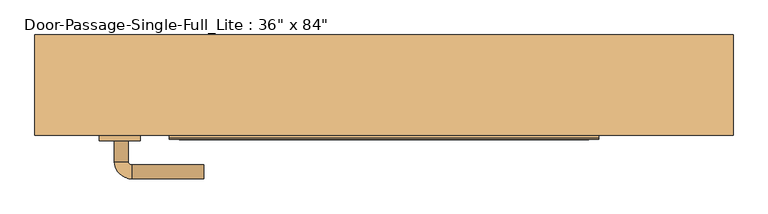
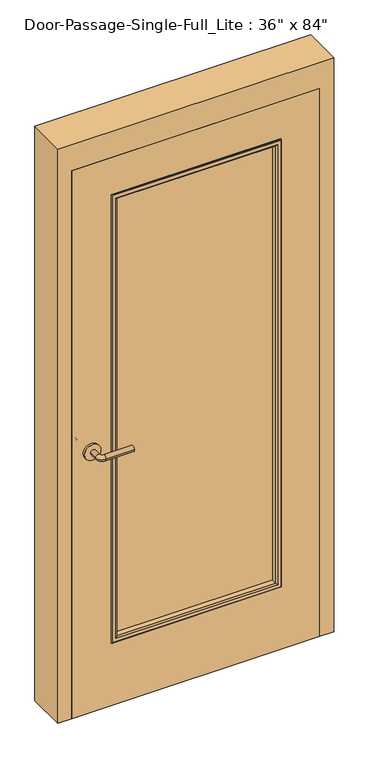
"""IFC4 building model written with IfcOpenShell, lengths in millimetres: door geometry."""

import ifcopenshell
import ifcopenshell.guid

model = None  # the IFC model being written
_history = None  # IfcOwnerHistory: only IFC2X3 demands one
_inside = {}  # id of a spatial element -> (the spatial element, [elements in it])
_under = {}  # id of a project, library or spatial element -> (it, [spatial elements below it])
_declared = {}  # id of a project -> (the project, [libraries it declares])
_typed = {}  # id of a type object -> (the type object, [elements of that type])
_made_of = {}  # id of a material, layer set ... -> (it, [elements and type objects made of it])


def new_model(schema):
    """Start an empty IFC model of exactly this schema.

    Asked for "IFC4X3", IfcOpenShell would pick the latest addendum, in which some entities
    have other attributes; the version numbers below select the first issue.
    IFC2X3 requires an IfcOwnerHistory on every rooted entity: one is made here for all.
    """
    global model, _history
    if schema == "IFC4X3":
        model = ifcopenshell.file(schema_version=(4, 3, 0, 0))
    else:
        model = ifcopenshell.file(schema=schema)
    _inside.clear()
    _under.clear()
    _declared.clear()
    _typed.clear()
    _made_of.clear()
    _history = None
    if model.schema == "IFC2X3":
        org = make("IfcOrganization", Name="unknown")
        user = make(
            "IfcPersonAndOrganization",
            ThePerson=make("IfcPerson", FamilyName="unknown"),
            TheOrganization=org,
        )
        app = make(
            "IfcApplication",
            ApplicationDeveloper=org,
            Version="unknown",
            ApplicationFullName="unknown",
            ApplicationIdentifier="unknown",
        )
        _history = make(
            "IfcOwnerHistory",
            OwningUser=user,
            OwningApplication=app,
            ChangeAction="ADDED",
            CreationDate=0,
        )
    return model


def make(cls, **values):
    """One entity of the class cls with the attributes given. An attribute that is None is left unset."""
    return model.create_entity(
        cls, **{name: value for name, value in values.items() if value is not None}
    )


def rooted(cls, **values):
    """An entity with a GlobalId (a new one), such as an element, a storey or a relation."""
    return make(cls, GlobalId=ifcopenshell.guid.new(), OwnerHistory=_history, **values)


def si_unit(unit_type, name, prefix=None):
    """IfcSIUnit, for example si_unit("LENGTHUNIT", "METRE", prefix="MILLI")."""
    return make("IfcSIUnit", UnitType=unit_type, Prefix=prefix, Name=name)


def assignment(units):
    """IfcUnitAssignment: the units of a project."""
    return None if units is None else make("IfcUnitAssignment", Units=units)


def point(xyz):
    """IfcCartesianPoint."""
    return None if xyz is None else make("IfcCartesianPoint", Coordinates=xyz)


def direction(xyz):
    """IfcDirection."""
    return None if xyz is None else make("IfcDirection", DirectionRatios=xyz)


def frame(location, z_axis=None, x_axis=None):
    """IfcAxis2Placement3D, a coordinate frame: its origin and axes. An axis left out is left unset."""
    return make(
        "IfcAxis2Placement3D",
        Location=point(location),
        Axis=direction(z_axis),
        RefDirection=direction(x_axis),
    )


def frame_2d(location, x_axis=None):
    """IfcAxis2Placement2D, a coordinate frame in the plane: its origin and x axis."""
    return make(
        "IfcAxis2Placement2D", Location=point(location), RefDirection=direction(x_axis)
    )


def origin():
    """The frame at (0, 0, 0) with its axes left unset."""
    return frame((0.0, 0.0, 0.0))


def place(relative_to, where):
    """IfcLocalPlacement: puts the frame where relative to a parent placement (None: the world)."""
    return make(
        "IfcLocalPlacement", PlacementRelTo=relative_to, RelativePlacement=where
    )


def context(
    kind, dimensions, precision=None, world=None, true_north=None, identifier=None
):
    """IfcGeometricRepresentationContext, for example the 3D "Model" context."""
    return make(
        "IfcGeometricRepresentationContext",
        ContextIdentifier=identifier,
        ContextType=kind,
        CoordinateSpaceDimension=dimensions,
        Precision=precision,
        WorldCoordinateSystem=world,
        TrueNorth=true_north,
    )


def project(units=None, contexts=None):
    """IfcProject with its units and contexts."""
    return rooted(
        "IfcProject",
        Name="project",
        RepresentationContexts=contexts,
        UnitsInContext=assignment(units),
    )


def spatial(cls, under=None, at=None, **own):
    """A site, building, storey or space (cls), placed at a placement, below another one or the project."""
    s = rooted(cls, ObjectPlacement=at, **own)
    if under is not None:
        _under.setdefault(under.id(), (under, []))[1].append(s)
    return s


def polyline(points):
    """IfcPolyline through the points."""
    return make("IfcPolyline", Points=[point(p) for p in points])


def circle_curve(where, radius):
    """IfcCircle in the frame where."""
    return make("IfcCircle", Position=where, Radius=radius)


def ellipse_curve(where, semi_axis1, semi_axis2):
    """IfcEllipse in the frame where."""
    return make(
        "IfcEllipse", Position=where, SemiAxis1=semi_axis1, SemiAxis2=semi_axis2
    )


def trimmed(basis, trim1, trim2, sense, master):
    """IfcTrimmedCurve: the piece of a basis curve between two trims."""
    return make(
        "IfcTrimmedCurve",
        BasisCurve=basis,
        Trim1=trim1,
        Trim2=trim2,
        SenseAgreement=sense,
        MasterRepresentation=master,
    )


def segment(curve, same_sense, transition):
    """IfcCompositeCurveSegment."""
    return make(
        "IfcCompositeCurveSegment",
        Transition=transition,
        SameSense=same_sense,
        ParentCurve=curve,
    )


def composite_curve(segments, self_intersect=None):
    """IfcCompositeCurve: segments joined end to end."""
    return make("IfcCompositeCurve", Segments=segments, SelfIntersect=self_intersect)


def outline(outer, holes=None, kind="AREA"):
    """IfcArbitraryClosedProfileDef: a profile drawn as a closed curve; with holes, ...WithVoids."""
    if holes is None:
        return make("IfcArbitraryClosedProfileDef", ProfileType=kind, OuterCurve=outer)
    return make(
        "IfcArbitraryProfileDefWithVoids",
        ProfileType=kind,
        OuterCurve=outer,
        InnerCurves=holes,
    )


def extrude(swept, where, along, depth):
    """IfcExtrudedAreaSolid: the profile swept, set in the frame where, extruded along a direction by depth."""
    return make(
        "IfcExtrudedAreaSolid",
        SweptArea=swept,
        Position=where,
        ExtrudedDirection=direction(along),
        Depth=depth,
    )


def faces_of(points, faces, orient=None, outer=None):
    """IfcFace entities. A face is a list of loops; a loop is a list of indices into points, from 0.

    orient and outer hold one flag for each loop. By default every Orientation is true, the
    first loop of a face is its IfcFaceOuterBound and the others are IfcFaceBound.
    """
    made = []
    for i, loops in enumerate(faces):
        bounds = []
        for j, loop in enumerate(loops):
            is_outer = j == 0 if outer is None else outer[i][j]
            bounds.append(
                make(
                    "IfcFaceOuterBound" if is_outer else "IfcFaceBound",
                    Bound=make("IfcPolyLoop", Polygon=[points[k] for k in loop]),
                    Orientation=True if orient is None else orient[i][j],
                )
            )
        made.append(make("IfcFace", Bounds=bounds))
    return made


def faceted_brep(points, faces, orient=None, outer=None, voids=None):
    """IfcFacetedBrep: a solid bounded by flat faces; with voids (closed shells), ...WithVoids."""
    shared = [point(p) for p in points]
    hull = make("IfcClosedShell", CfsFaces=faces_of(shared, faces, orient, outer))
    if voids is None:
        return make("IfcFacetedBrep", Outer=hull)
    return make(
        "IfcFacetedBrepWithVoids",
        Outer=hull,
        Voids=[
            make(cls, CfsFaces=faces_of(shared, fs, o, b)) for cls, fs, o, b in voids
        ],
    )


def shape(context_of_items, identifier, shape_type, items):
    """IfcShapeRepresentation: the items that make up one representation, for example the "Body"."""
    return make(
        "IfcShapeRepresentation",
        ContextOfItems=context_of_items,
        RepresentationIdentifier=identifier,
        RepresentationType=shape_type,
        Items=items,
    )


def source(mapping_origin, context_of_items, identifier, shape_type, items):
    """IfcRepresentationMap: a shape defined once, which mapped items show again and again."""
    return make(
        "IfcRepresentationMap",
        MappingOrigin=mapping_origin,
        MappedRepresentation=shape(context_of_items, identifier, shape_type, items),
    )


def transform(
    local_origin,
    x_axis=None,
    y_axis=None,
    z_axis=None,
    scale=None,
    scale2=None,
    scale3=None,
    uniform=True,
):
    """IfcCartesianTransformationOperator3D, or its non-uniform kind. x_axis, y_axis, z_axis: its Axis1, 2, 3."""
    if uniform:
        return make(
            "IfcCartesianTransformationOperator3D",
            Axis1=direction(x_axis),
            Axis2=direction(y_axis),
            LocalOrigin=point(local_origin),
            Scale=scale,
            Axis3=direction(z_axis),
        )
    return make(
        "IfcCartesianTransformationOperator3DnonUniform",
        Axis1=direction(x_axis),
        Axis2=direction(y_axis),
        LocalOrigin=point(local_origin),
        Scale=scale,
        Axis3=direction(z_axis),
        Scale2=scale2,
        Scale3=scale3,
    )


def mapped(mapping_source, mapping_target):
    """IfcMappedItem: shows the shape of a source again, moved by a transform."""
    return make(
        "IfcMappedItem", MappingSource=mapping_source, MappingTarget=mapping_target
    )


def made_of(thing, what):
    """Note that an element or type object is made of a material, layer set ...; save() writes the relation."""
    if what is not None:
        _made_of.setdefault(what.id(), (what, []))[1].append(thing)
    return thing


def element(
    cls,
    number,
    at=None,
    inside=None,
    cuts=None,
    type_object=None,
    material=None,
    context=None,
    identifier="Body",
    shape_type=None,
    held_by="IfcProductDefinitionShape",
    body=None,
    shapes=None,
    **own,
):
    """One element of the class cls, such as IfcWall. Its Tag is "e" and its number.

    at: its placement. inside: the storey or other place that contains it. cuts: it is an
    opening in that element (IfcRelVoidsElement). A single representation is given by context,
    identifier, shape_type and body (its items); several are given by shapes. held_by: the class
    of the entity that holds the representations. save() writes the other relations.
    """
    e = rooted(cls, Tag="e%d" % number, ObjectPlacement=at, **own)
    if body is not None:
        shapes = [shape(context, identifier, shape_type, body)]
    if shapes is not None:
        e.Representation = make(held_by, Representations=shapes)
    if inside is not None:
        _inside.setdefault(inside.id(), (inside, []))[1].append(e)
    if cuts is not None:
        rooted(
            "IfcRelVoidsElement", RelatingBuildingElement=cuts, RelatedOpeningElement=e
        )
    if type_object is not None:
        _typed.setdefault(type_object.id(), (type_object, []))[1].append(e)
    return made_of(e, material)


def aggregate(whole, parts):
    """IfcRelAggregates: a whole, such as a stair, and the parts it consists of."""
    return rooted("IfcRelAggregates", RelatingObject=whole, RelatedObjects=parts)


def save(model, path):
    """Write the relations noted so far, then the file.

    IfcRelAggregates (storeys below a building ...), IfcRelContainedInSpatialStructure (elements
    in a storey), IfcRelDefinesByType, IfcRelAssociatesMaterial and IfcRelDeclares: one each for
    every whole, place, type object, material and project.
    """
    for whole, parts in _under.values():
        aggregate(whole, parts)
    for where, things in _inside.values():
        rooted(
            "IfcRelContainedInSpatialStructure",
            RelatedElements=things,
            RelatingStructure=where,
        )
    for kind, things in _typed.values():
        rooted("IfcRelDefinesByType", RelatedObjects=things, RelatingType=kind)
    for what, things in _made_of.values():
        rooted("IfcRelAssociatesMaterial", RelatedObjects=things, RelatingMaterial=what)
    for by, libraries in _declared.values():
        rooted("IfcRelDeclares", RelatingContext=by, RelatedDefinitions=libraries)
    model.write(path)


def plane_surface(at):
    """IfcPlane: the flat surface through the origin of the frame at, square to its z axis."""
    return make("IfcPlane", Position=at)


def cylinder_surface(at, radius):
    """IfcCylindricalSurface: all points at the distance radius from the z axis of the frame at."""
    return make("IfcCylindricalSurface", Position=at, Radius=radius)


def revolved_surface(curve, axis_point, axis_direction):
    """IfcSurfaceOfRevolution: the curve turned about the line through axis_point along axis_direction."""
    return make(
        "IfcSurfaceOfRevolution",
        SweptCurve=make("IfcArbitraryOpenProfileDef", ProfileType="CURVE", Curve=curve),
        AxisPosition=make("IfcAxis1Placement", Location=point(axis_point), Axis=direction(axis_direction)),
    )


def advanced_brep(points, edges, surfaces, faces):
    """IfcAdvancedBrep: a solid bounded by faces that lie on surfaces and meet in shared edges.

    An edge is (start, end): straight between two places in points (the first is 0);
    or (start, end, curve); or (start, end, curve, False) where it runs against its curve.
    A face is (place in surfaces, loops), or (place, loops, False) where it looks against
    its surface's normal. A loop lists edges by number (the first is 1), with a minus sign
    where the edge is run from its end to its start. The first loop is the outer one.
    """
    corners = [point(p) for p in points]
    vertices = [make("IfcVertexPoint", VertexGeometry=c) for c in corners]
    made = []
    for start, end, *more in edges:
        made.append(
            make(
                "IfcEdgeCurve",
                EdgeStart=vertices[start],
                EdgeEnd=vertices[end],
                EdgeGeometry=more[0] if more else make("IfcPolyline", Points=[corners[start], corners[end]]),
                SameSense=more[1] if len(more) > 1 else True,
            )
        )
    hull = []
    for where, loops, *sense in faces:
        bounds = []
        for j, loop in enumerate(loops):
            ring = [make("IfcOrientedEdge", EdgeElement=made[abs(k) - 1], Orientation=k > 0) for k in loop]
            bounds.append(
                make(
                    "IfcFaceOuterBound" if j == 0 else "IfcFaceBound",
                    Bound=make("IfcEdgeLoop", EdgeList=ring),
                    Orientation=True,
                )
            )
        hull.append(make("IfcAdvancedFace", Bounds=bounds, FaceSurface=surfaces[where], SameSense=sense[0] if sense else True))
    return make("IfcAdvancedBrep", Outer=make("IfcClosedShell", CfsFaces=hull))


def door_4cfbdd5f(model_context):
    return source(origin(), model_context, "Body", "SolidModel", [
        advanced_brep(
        [(-392.190625, -23.75, 1016.0), (-372.190625, -23.75, 1016.0), (-392.190625, 6.25, 1016.0), (-372.190625, 6.25, 1016.0), (-367.190625, 11.25, 1016.0), (-367.190625, 31.25, 1016.0), (-262.190625, 31.25, 1016.0), (-262.190625, 11.25, 1016.0)],
        [
            (0, 1, circle_curve(frame((-382.190625, -23.75, 1016.0), z_axis=(0.0, -1.0, 0.0), x_axis=(1.0, 0.0, 0.0)), 10.0)),
            (1, 0, circle_curve(frame((-382.190625, -23.75, 1016.0), z_axis=(0.0, -1.0, 0.0), x_axis=(1.0, 0.0, 0.0)), 10.0)),
            (0, 2),
            (2, 3, circle_curve(frame((-382.190625, 6.25, 1016.0), z_axis=(0.0, -1.0, 0.0), x_axis=(1.0, 0.0, 0.0)), 10.0)),
            (3, 1),
            (3, 2, circle_curve(frame((-382.190625, 6.25, 1016.0), z_axis=(0.0, -1.0, 0.0), x_axis=(1.0, 0.0, 0.0)), 10.0)),
            (4, 3, circle_curve(frame((-367.190625, 6.25, 1016.0), z_axis=(0.0, 0.0, 1.0), x_axis=(-1.0, 0.0, 0.0)), 5.0)),
            (2, 5, circle_curve(frame((-367.190625, 6.25, 1016.0), z_axis=(0.0, 0.0, -1.0), x_axis=(-1.0, 0.0, 0.0)), 25.0)),
            (5, 4, circle_curve(frame((-367.190625, 21.25, 1016.0), z_axis=(-1.0, 0.0, 0.0), x_axis=(0.0, -1.0, 0.0)), 10.0)),
            (4, 5, circle_curve(frame((-367.190625, 21.25, 1016.0), z_axis=(-1.0, 0.0, 0.0), x_axis=(0.0, -1.0, 0.0)), 10.0)),
            (6, 7, circle_curve(frame((-262.190625, 21.25, 1016.0), z_axis=(1.0, 0.0, 0.0), x_axis=(0.0, -1.0, 0.0)), 10.0)),
            (7, 6, circle_curve(frame((-262.190625, 21.25, 1016.0), z_axis=(1.0, 0.0, 0.0), x_axis=(0.0, -1.0, 0.0)), 10.0)),
            (5, 6),
            (7, 4),
        ],
        [
            plane_surface(frame((-382.190625, -23.75, 1016.0), z_axis=(0.0, -1.0, 0.0), x_axis=(0.0, 0.0, 1.0))),
            cylinder_surface(frame((-382.190625, -23.75, 1016.0), z_axis=(0.0, -1.0, 0.0), x_axis=(1.0, 0.0, 0.0)), 10.0),
            revolved_surface(trimmed(ellipse_curve(frame((-382.190625, 6.25, 1016.0), z_axis=(0.0, -1.0, 0.0), x_axis=(1.0, 0.0, 0.0)), 10.0, 10.0), [point((-392.190625, 6.25, 1016.0))], [point((-372.190625, 6.25, 1016.0))], True, "CARTESIAN"), (-367.190625, 6.25, 1016.0), (0.0, 0.0, -1.0)),
            revolved_surface(trimmed(ellipse_curve(frame((-382.190625, 6.25, 1016.0), z_axis=(0.0, -1.0, 0.0), x_axis=(1.0, 0.0, 0.0)), 10.0, 10.0), [point((-372.190625, 6.25, 1016.0))], [point((-392.190625, 6.25, 1016.0))], True, "CARTESIAN"), (-367.190625, 6.25, 1016.0), (0.0, 0.0, -1.0)),
            plane_surface(frame((-262.190625, 21.25, 1016.0), z_axis=(1.0, 0.0, 0.0), x_axis=(0.0, 0.0, 1.0))),
            cylinder_surface(frame((-367.190625, 21.25, 1016.0), z_axis=(-1.0, 0.0, 0.0), x_axis=(0.0, -1.0, 0.0)), 10.0),
        ],
        [
            (0, [[1, 2]]),
            (1, [[-1, 3, 4, 5]]),
            (1, [[-2, -5, 6, -3]]),
            (2, [[7, -4, 8, 9]]),
            (3, [[-8, -6, -7, 10]]),
            (4, [[11, 12]]),
            (5, [[-9, 13, -12, 14]]),
            (5, [[-10, -14, -11, -13]]),
        ],
    ),
        extrude(outline(composite_curve([segment(trimmed(circle_curve(frame_2d((1016.0, -384.690625)), 30.0), [point((1016.0, -414.690625))], [point((1016.0, -354.690625))], False, "CARTESIAN"), True, "CONTINUOUS"), segment(trimmed(circle_curve(frame_2d((1016.0, -384.690625)), 30.0), [point((1016.0, -354.690625))], [point((1016.0, -414.690625))], False, "CARTESIAN"), True, "CONTINUOUS")], self_intersect=False)), frame((0.0, -31.75, 0.0), z_axis=(0.0, 1.0, 0.0), x_axis=(0.0, 0.0, 1.0)), (0.0, 0.0, 1.0), 8.0),
        advanced_brep(
        [(-392.190625, -84.2, 1016.0), (-372.190625, -84.2, 1016.0), (-372.190625, -114.2, 1016.0), (-392.190625, -114.2, 1016.0), (-367.190625, -119.2, 1016.0), (-367.190625, -139.2, 1016.0), (-262.190625, -139.2, 1016.0), (-262.190625, -119.2, 1016.0)],
        [
            (0, 1, circle_curve(frame((-382.190625, -84.2, 1016.0), z_axis=(0.0, 1.0, 0.0), x_axis=(1.0, 0.0, 0.0)), 10.0)),
            (1, 0, circle_curve(frame((-382.190625, -84.2, 1016.0), z_axis=(0.0, 1.0, 0.0), x_axis=(1.0, 0.0, 0.0)), 10.0)),
            (1, 2),
            (2, 3, circle_curve(frame((-382.190625, -114.2, 1016.0), z_axis=(0.0, 1.0, 0.0), x_axis=(1.0, 0.0, 0.0)), 10.0)),
            (3, 0),
            (3, 2, circle_curve(frame((-382.190625, -114.2, 1016.0), z_axis=(0.0, 1.0, 0.0), x_axis=(1.0, 0.0, 0.0)), 10.0)),
            (4, 5, circle_curve(frame((-367.190625, -129.2, 1016.0), z_axis=(-1.0, 0.0, 0.0), x_axis=(0.0, 1.0, 0.0)), 10.0)),
            (5, 3, circle_curve(frame((-367.190625, -114.2, 1016.0), z_axis=(0.0, 0.0, -1.0), x_axis=(-1.0, 0.0, 0.0)), 25.0)),
            (2, 4, circle_curve(frame((-367.190625, -114.2, 1016.0), z_axis=(0.0, 0.0, 1.0), x_axis=(-1.0, 0.0, 0.0)), 5.0)),
            (5, 4, circle_curve(frame((-367.190625, -129.2, 1016.0), z_axis=(-1.0, 0.0, 0.0), x_axis=(0.0, 1.0, 0.0)), 10.0)),
            (6, 7, circle_curve(frame((-262.190625, -129.2, 1016.0), z_axis=(1.0, 0.0, 0.0), x_axis=(0.0, 1.0, 0.0)), 10.0)),
            (7, 6, circle_curve(frame((-262.190625, -129.2, 1016.0), z_axis=(1.0, 0.0, 0.0), x_axis=(0.0, 1.0, 0.0)), 10.0)),
            (4, 7),
            (6, 5),
        ],
        [
            plane_surface(frame((-382.190625, -84.2, 1016.0), z_axis=(0.0, 1.0, 0.0), x_axis=(0.0, 0.0, 1.0))),
            cylinder_surface(frame((-382.190625, -84.2, 1016.0), z_axis=(0.0, 1.0, 0.0), x_axis=(1.0, 0.0, 0.0)), 10.0),
            revolved_surface(trimmed(ellipse_curve(frame((-382.190625, -114.2, 1016.0), z_axis=(0.0, -1.0, 0.0), x_axis=(1.0, 0.0, 0.0)), 10.0, 10.0), [point((-392.190625, -114.2, 1016.0))], [point((-372.190625, -114.2, 1016.0))], True, "CARTESIAN"), (-367.190625, -114.2, 1016.0), (0.0, 0.0, -1.0)),
            revolved_surface(trimmed(ellipse_curve(frame((-382.190625, -114.2, 1016.0), z_axis=(0.0, -1.0, 0.0), x_axis=(1.0, 0.0, 0.0)), 10.0, 10.0), [point((-372.190625, -114.2, 1016.0))], [point((-392.190625, -114.2, 1016.0))], True, "CARTESIAN"), (-367.190625, -114.2, 1016.0), (0.0, 0.0, -1.0)),
            plane_surface(frame((-262.190625, -129.2, 1016.0), z_axis=(1.0, 0.0, 0.0), x_axis=(0.0, 0.0, 1.0))),
            cylinder_surface(frame((-367.190625, -129.2, 1016.0), z_axis=(-1.0, 0.0, 0.0), x_axis=(0.0, 1.0, 0.0)), 10.0),
        ],
        [
            (0, [[1, 2]]),
            (1, [[3, 4, 5, -2]]),
            (1, [[-5, 6, -3, -1]]),
            (2, [[7, 8, -4, 9]]),
            (3, [[10, -9, -6, -8]]),
            (4, [[11, 12]]),
            (5, [[13, -11, 14, -7]]),
            (5, [[-14, -12, -13, -10]]),
        ],
    ),
        extrude(outline(composite_curve([segment(trimmed(circle_curve(frame_2d((1016.0, -384.690625)), 30.0), [point((1016.0, -414.690625))], [point((1016.0, -354.690625))], False, "CARTESIAN"), True, "CONTINUOUS"), segment(trimmed(circle_curve(frame_2d((1016.0, -384.690625)), 30.0), [point((1016.0, -354.690625))], [point((1016.0, -414.690625))], False, "CARTESIAN"), True, "CONTINUOUS")], self_intersect=False)), frame((0.0, -84.2, 0.0), z_axis=(0.0, 1.0, 0.0), x_axis=(0.0, 0.0, 1.0)), (0.0, 0.0, 1.0), 8.0),
        extrude(outline(polyline([(304.8, -50.8), (304.8, -57.15), (-304.8, -57.15), (-304.8, -50.8), (304.8, -50.8)])), frame((0.0, 0.0, 254.0), z_axis=(0.0, 0.0, 1.0), x_axis=(1.0, 0.0, 0.0)), (0.0, 0.0, 1.0), 1727.2),
        faceted_brep([(457.2, -26.9875, 0.0), (441.325, -26.9875, 0.0), (441.325, 20.6375, 0.0), (457.2, 20.6375, 0.0), (457.2, 69.85, 0.0), (508.0, 69.85, 0.0), (508.0, -76.2, 0.0), (457.2, -76.2, 0.0), (457.2, -76.2, 2133.6), (457.2, -26.9875, 2133.6), (508.0, -76.2, 2235.2), (-508.0, -76.2, 2235.2), (-508.0, -76.2, 0.0), (-457.2, -76.2, 0.0), (-457.2, -76.2, 2133.6), (508.0, 69.85, 2235.2), (457.2, 69.85, 2133.6), (-457.2, 69.85, 2133.6), (-457.2, 69.85, 0.0), (-508.0, 69.85, 0.0), (-508.0, 69.85, 2235.2), (457.2, 20.6375, 2133.6), (441.325, 20.6375, 2117.725), (-441.325, 20.6375, 2117.725), (-441.325, 20.6375, 0.0), (-457.2, 20.6375, 0.0), (-457.2, 20.6375, 2133.6), (441.325, -26.9875, 2117.725), (-457.2, -26.9875, 2133.6), (-457.2, -26.9875, 0.0), (-441.325, -26.9875, 0.0), (-441.325, -26.9875, 2117.725)], [[[0, 1, 2, 3, 4, 5, 6, 7]], [[7, 8, 9, 0]], [[6, 10, 11, 12, 13, 14, 8, 7]], [[5, 15, 10, 6]], [[4, 16, 17, 18, 19, 20, 15, 5]], [[3, 21, 16, 4]], [[2, 22, 23, 24, 25, 26, 21, 3]], [[1, 27, 22, 2]], [[0, 9, 28, 29, 30, 31, 27, 1]], [[8, 14, 28, 9]], [[16, 21, 26, 17]], [[22, 27, 31, 23]], [[12, 19, 18, 25, 24, 30, 29, 13]], [[13, 29, 28, 14]], [[11, 20, 19, 12]], [[17, 26, 25, 18]], [[23, 31, 30, 24]], [[15, 20, 11, 10]]]),
        extrude(outline(polyline([(2133.6, -457.2), (0.0, -457.2), (0.0, 457.2), (2133.6, 457.2), (2133.6, -457.2)]), holes=[polyline([(1981.2, -304.8), (1981.2, 304.8), (254.0, 304.8), (254.0, -304.8), (1981.2, -304.8)])]), frame((0.0, -76.2, 0.0), z_axis=(0.0, 1.0, 0.0), x_axis=(0.0, 0.0, 1.0)), (0.0, 0.0, 1.0), 44.45),
        advanced_brep(
        [(-304.8, -57.15, 1981.2), (-304.8, -57.15, 254.0), (-304.8, -76.2, 254.0), (-304.8, -76.2, 1981.2), (-292.8, -77.2, 1969.2), (-292.8, -77.2, 266.0), (-292.8, -57.15, 266.0), (-292.8, -57.15, 1969.2), (-297.8, -82.2, 1974.2), (-297.8, -82.2, 261.0), (-312.8, -80.2, 1989.2), (-312.8, -80.2, 246.0), (-310.8, -82.2, 248.0), (-310.8, -82.2, 1987.2), (-312.8, -76.2, 1989.2), (-312.8, -76.2, 246.0), (304.8, -57.15, 254.0), (304.8, -76.2, 254.0), (292.8, -77.2, 266.0), (292.8, -57.15, 266.0), (297.8, -82.2, 261.0), (312.8, -80.2, 246.0), (310.8, -82.2, 248.0), (312.8, -76.2, 246.0), (304.8, -57.15, 1981.2), (304.8, -76.2, 1981.2), (292.8, -77.2, 1969.2), (292.8, -57.15, 1969.2), (297.8, -82.2, 1974.2), (312.8, -80.2, 1989.2), (310.8, -82.2, 1987.2), (312.8, -76.2, 1989.2)],
        [
            (0, 1),
            (1, 2),
            (2, 3),
            (3, 0),
            (4, 5),
            (5, 6),
            (6, 7),
            (7, 4),
            (8, 9),
            (9, 5, ellipse_curve(frame((-297.8, -77.2, 261.0), z_axis=(-0.7071067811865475, 0.0, 0.7071067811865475), x_axis=(0.7071067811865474, 0.0, 0.7071067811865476)), 7.0710678, 5.0)),
            (4, 8, ellipse_curve(frame((-297.8, -77.2, 1974.2), z_axis=(-0.7071067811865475, 0.0, -0.7071067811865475), x_axis=(-0.7071067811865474, 0.0, 0.7071067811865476)), 7.0710678, 5.0)),
            (10, 11),
            (11, 12, ellipse_curve(frame((-310.8, -80.2, 248.0), z_axis=(-0.7071067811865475, 0.0, 0.7071067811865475), x_axis=(0.7071067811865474, 0.0, 0.7071067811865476)), 2.8284271, 2.0)),
            (12, 13),
            (13, 10, ellipse_curve(frame((-310.8, -80.2, 1987.2), z_axis=(-0.7071067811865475, 0.0, -0.7071067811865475), x_axis=(-0.7071067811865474, 0.0, 0.7071067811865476)), 2.8284271, 2.0)),
            (14, 15),
            (15, 11),
            (10, 14),
            (1, 16),
            (16, 17),
            (17, 2),
            (5, 18),
            (18, 19),
            (19, 6),
            (9, 20),
            (20, 18, ellipse_curve(frame((297.8, -77.2, 261.0), z_axis=(-0.7071067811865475, 0.0, -0.7071067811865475), x_axis=(-0.7071067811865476, 0.0, 0.7071067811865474)), 7.0710678, 5.0)),
            (11, 21),
            (21, 22, ellipse_curve(frame((310.8, -80.2, 248.0), z_axis=(-0.7071067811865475, 0.0, -0.7071067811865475), x_axis=(-0.7071067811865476, 0.0, 0.7071067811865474)), 2.8284271, 2.0)),
            (22, 12),
            (15, 23),
            (23, 21),
            (16, 24),
            (24, 25),
            (25, 17),
            (18, 26),
            (26, 27),
            (27, 19),
            (20, 28),
            (28, 26, ellipse_curve(frame((297.8, -77.2, 1974.2), z_axis=(0.7071067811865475, 0.0, -0.7071067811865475), x_axis=(-0.7071067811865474, 0.0, -0.7071067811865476)), 7.0710678, 5.0)),
            (21, 29),
            (29, 30, ellipse_curve(frame((310.8, -80.2, 1987.2), z_axis=(0.7071067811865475, 0.0, -0.7071067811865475), x_axis=(-0.7071067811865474, 0.0, -0.7071067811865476)), 2.8284271, 2.0)),
            (30, 22),
            (23, 31),
            (31, 29),
            (14, 31),
            (25, 3),
            (24, 0),
            (27, 7),
            (26, 4),
            (28, 8),
            (30, 13),
            (29, 10),
        ],
        [
            plane_surface(frame((-304.8, -76.2, 1981.2), z_axis=(-1.0, 0.0, 0.0), x_axis=(0.0, 0.0, -1.0))),
            plane_surface(frame((-292.8, -57.15, 1969.2), z_axis=(1.0, 0.0, 0.0), x_axis=(0.0, 0.0, -1.0))),
            cylinder_surface(frame((-297.8, -77.2, 1981.2), z_axis=(0.0, 0.0, 1.0), x_axis=(-1.0, 0.0, 0.0)), 5.0),
            cylinder_surface(frame((-310.8, -80.2, 1981.2), z_axis=(0.0, 0.0, 1.0), x_axis=(-1.0, 0.0, 0.0)), 2.0),
            plane_surface(frame((-312.8, -80.2, 1989.2), z_axis=(-1.0, 0.0, 0.0), x_axis=(0.0, 0.0, -1.0))),
            plane_surface(frame((-304.8, -76.2, 254.0), z_axis=(0.0, 0.0, -1.0), x_axis=(1.0, 0.0, 0.0))),
            plane_surface(frame((-292.8, -57.15, 266.0), z_axis=(0.0, 0.0, 1.0), x_axis=(1.0, 0.0, 0.0))),
            cylinder_surface(frame((-304.8, -77.2, 261.0), z_axis=(-1.0, 0.0, 0.0), x_axis=(0.0, 0.0, -1.0)), 5.0),
            cylinder_surface(frame((-304.8, -80.2, 248.0), z_axis=(-1.0, 0.0, 0.0), x_axis=(0.0, 0.0, -1.0)), 2.0),
            plane_surface(frame((-312.8, -80.2, 246.0), z_axis=(0.0, 0.0, -1.0), x_axis=(1.0, 0.0, 0.0))),
            plane_surface(frame((304.8, -76.2, 254.0), z_axis=(1.0, 0.0, 0.0), x_axis=(0.0, 0.0, 1.0))),
            plane_surface(frame((292.8, -57.15, 266.0), z_axis=(-1.0, 0.0, 0.0), x_axis=(0.0, 0.0, 1.0))),
            cylinder_surface(frame((297.8, -77.2, 254.0), z_axis=(0.0, 0.0, -1.0), x_axis=(1.0, 0.0, 0.0)), 5.0),
            cylinder_surface(frame((310.8, -80.2, 254.0), z_axis=(0.0, 0.0, -1.0), x_axis=(1.0, 0.0, 0.0)), 2.0),
            plane_surface(frame((312.8, -80.2, 246.0), z_axis=(1.0, 0.0, 0.0), x_axis=(0.0, 0.0, 1.0))),
            plane_surface(frame((312.8, -76.2, 1989.2), z_axis=(0.0, 1.0, 0.0), x_axis=(-1.0, 0.0, 0.0))),
            plane_surface(frame((304.8, -76.2, 1981.2), z_axis=(0.0, 0.0, 1.0), x_axis=(-1.0, 0.0, 0.0))),
            plane_surface(frame((304.8, -57.15, 1981.2), z_axis=(0.0, 1.0, 0.0), x_axis=(-1.0, 0.0, 0.0))),
            plane_surface(frame((292.8, -57.15, 1969.2), z_axis=(0.0, 0.0, -1.0), x_axis=(-1.0, 0.0, 0.0))),
            cylinder_surface(frame((304.8, -77.2, 1974.2), z_axis=(1.0, 0.0, 0.0), x_axis=(0.0, 0.0, 1.0)), 5.0),
            plane_surface(frame((297.8, -82.2, 1974.2), z_axis=(0.0, -1.0, 0.0), x_axis=(-1.0, 0.0, 0.0))),
            cylinder_surface(frame((304.8, -80.2, 1987.2), z_axis=(1.0, 0.0, 0.0), x_axis=(0.0, 0.0, 1.0)), 2.0),
            plane_surface(frame((312.8, -80.2, 1989.2), z_axis=(0.0, 0.0, 1.0), x_axis=(-1.0, 0.0, 0.0))),
        ],
        [
            (0, [[1, 2, 3, 4]]),
            (1, [[5, 6, 7, 8]]),
            (2, [[9, 10, -5, 11]]),
            (3, [[12, 13, 14, 15]]),
            (4, [[16, 17, -12, 18]]),
            (5, [[19, 20, 21, -2]]),
            (6, [[22, 23, 24, -6]]),
            (7, [[25, 26, -22, -10]]),
            (8, [[27, 28, 29, -13]]),
            (9, [[30, 31, -27, -17]]),
            (10, [[32, 33, 34, -20]]),
            (11, [[35, 36, 37, -23]]),
            (12, [[38, 39, -35, -26]]),
            (13, [[40, 41, 42, -28]]),
            (14, [[43, 44, -40, -31]]),
            (15, [[-16, 45, -43, -30], [-3, -21, -34, 46]]),
            (16, [[47, -4, -46, -33]]),
            (17, [[-1, -47, -32, -19], [-7, -24, -37, 48]]),
            (18, [[49, -8, -48, -36]]),
            (19, [[50, -11, -49, -39]]),
            (20, [[-14, -29, -42, 51], [-9, -50, -38, -25]]),
            (21, [[52, -15, -51, -41]]),
            (22, [[-45, -18, -52, -44]]),
        ],
    ),
        advanced_brep(
        [(-304.8, -50.8, 254.0), (-304.8, -50.8, 1981.2), (-304.8, -31.75, 1981.2), (-304.8, -31.75, 254.0), (-292.8, -30.75, 266.0), (-292.8, -30.75, 1969.2), (-292.8, -50.8, 1969.2), (-292.8, -50.8, 266.0), (-297.8, -25.75, 261.0), (-297.8, -25.75, 1974.2), (-312.8, -27.75, 246.0), (-312.8, -27.75, 1989.2), (-310.8, -25.75, 1987.2), (-310.8, -25.75, 248.0), (-312.8, -31.75, 246.0), (-312.8, -31.75, 1989.2), (304.8, -50.8, 1981.2), (304.8, -31.75, 1981.2), (292.8, -30.75, 1969.2), (292.8, -50.8, 1969.2), (297.8, -25.75, 1974.2), (312.8, -27.75, 1989.2), (310.8, -25.75, 1987.2), (312.8, -31.75, 1989.2), (304.8, -50.8, 254.0), (304.8, -31.75, 254.0), (292.8, -30.75, 266.0), (292.8, -50.8, 266.0), (297.8, -25.75, 261.0), (312.8, -27.75, 246.0), (310.8, -25.75, 248.0), (312.8, -31.75, 246.0)],
        [
            (0, 1),
            (1, 2),
            (2, 3),
            (3, 0),
            (4, 5),
            (5, 6),
            (6, 7),
            (7, 4),
            (8, 9),
            (9, 5, ellipse_curve(frame((-297.8, -30.75, 1974.2), z_axis=(-0.7071067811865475, 0.0, -0.7071067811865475), x_axis=(0.7071067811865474, 0.0, -0.7071067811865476)), 7.0710678, 5.0)),
            (4, 8, ellipse_curve(frame((-297.8, -30.75, 261.0), z_axis=(-0.7071067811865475, 0.0, 0.7071067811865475), x_axis=(-0.7071067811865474, 0.0, -0.7071067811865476)), 7.0710678, 5.0)),
            (10, 11),
            (11, 12, ellipse_curve(frame((-310.8, -27.75, 1987.2), z_axis=(-0.7071067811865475, 0.0, -0.7071067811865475), x_axis=(0.7071067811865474, 0.0, -0.7071067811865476)), 2.8284271, 2.0)),
            (12, 13),
            (13, 10, ellipse_curve(frame((-310.8, -27.75, 248.0), z_axis=(-0.7071067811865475, 0.0, 0.7071067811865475), x_axis=(-0.7071067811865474, 0.0, -0.7071067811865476)), 2.8284271, 2.0)),
            (14, 15),
            (15, 11),
            (10, 14),
            (1, 16),
            (16, 17),
            (17, 2),
            (5, 18),
            (18, 19),
            (19, 6),
            (9, 20),
            (20, 18, ellipse_curve(frame((297.8, -30.75, 1974.2), z_axis=(-0.7071067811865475, 0.0, 0.7071067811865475), x_axis=(-0.7071067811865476, 0.0, -0.7071067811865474)), 7.0710678, 5.0)),
            (11, 21),
            (21, 22, ellipse_curve(frame((310.8, -27.75, 1987.2), z_axis=(-0.7071067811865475, 0.0, 0.7071067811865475), x_axis=(-0.7071067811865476, 0.0, -0.7071067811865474)), 2.8284271, 2.0)),
            (22, 12),
            (15, 23),
            (23, 21),
            (16, 24),
            (24, 25),
            (25, 17),
            (18, 26),
            (26, 27),
            (27, 19),
            (20, 28),
            (28, 26, ellipse_curve(frame((297.8, -30.75, 261.0), z_axis=(0.7071067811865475, 0.0, 0.7071067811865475), x_axis=(-0.7071067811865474, 0.0, 0.7071067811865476)), 7.0710678, 5.0)),
            (21, 29),
            (29, 30, ellipse_curve(frame((310.8, -27.75, 248.0), z_axis=(0.7071067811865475, 0.0, 0.7071067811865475), x_axis=(-0.7071067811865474, 0.0, 0.7071067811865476)), 2.8284271, 2.0)),
            (30, 22),
            (23, 31),
            (31, 29),
            (14, 31),
            (25, 3),
            (24, 0),
            (27, 7),
            (26, 4),
            (28, 8),
            (30, 13),
            (29, 10),
        ],
        [
            plane_surface(frame((-304.8, -31.75, 254.0), z_axis=(-1.0, 0.0, 0.0), x_axis=(0.0, 0.0, 1.0))),
            plane_surface(frame((-292.8, -50.8, 266.0), z_axis=(1.0, 0.0, 0.0), x_axis=(0.0, 0.0, 1.0))),
            cylinder_surface(frame((-297.8, -30.75, 254.0), z_axis=(0.0, 0.0, -1.0), x_axis=(-1.0, 0.0, 0.0)), 5.0),
            cylinder_surface(frame((-310.8, -27.75, 254.0), z_axis=(0.0, 0.0, -1.0), x_axis=(-1.0, 0.0, 0.0)), 2.0),
            plane_surface(frame((-312.8, -27.75, 246.0), z_axis=(-1.0, 0.0, 0.0), x_axis=(0.0, 0.0, 1.0))),
            plane_surface(frame((-304.8, -31.75, 1981.2), z_axis=(0.0, 0.0, 1.0), x_axis=(1.0, 0.0, 0.0))),
            plane_surface(frame((-292.8, -50.8, 1969.2), z_axis=(0.0, 0.0, -1.0), x_axis=(1.0, 0.0, 0.0))),
            cylinder_surface(frame((-304.8, -30.75, 1974.2), z_axis=(-1.0, 0.0, 0.0), x_axis=(0.0, 0.0, 1.0)), 5.0),
            cylinder_surface(frame((-304.8, -27.75, 1987.2), z_axis=(-1.0, 0.0, 0.0), x_axis=(0.0, 0.0, 1.0)), 2.0),
            plane_surface(frame((-312.8, -27.75, 1989.2), z_axis=(0.0, 0.0, 1.0), x_axis=(1.0, 0.0, 0.0))),
            plane_surface(frame((304.8, -31.75, 1981.2), z_axis=(1.0, 0.0, 0.0), x_axis=(0.0, 0.0, -1.0))),
            plane_surface(frame((292.8, -50.8, 1969.2), z_axis=(-1.0, 0.0, 0.0), x_axis=(0.0, 0.0, -1.0))),
            cylinder_surface(frame((297.8, -30.75, 1981.2), z_axis=(0.0, 0.0, 1.0), x_axis=(1.0, 0.0, 0.0)), 5.0),
            cylinder_surface(frame((310.8, -27.75, 1981.2), z_axis=(0.0, 0.0, 1.0), x_axis=(1.0, 0.0, 0.0)), 2.0),
            plane_surface(frame((312.8, -27.75, 1989.2), z_axis=(1.0, 0.0, 0.0), x_axis=(0.0, 0.0, -1.0))),
            plane_surface(frame((312.8, -31.75, 246.0), z_axis=(0.0, -1.0, 0.0), x_axis=(-1.0, 0.0, 0.0))),
            plane_surface(frame((304.8, -31.75, 254.0), z_axis=(0.0, 0.0, -1.0), x_axis=(-1.0, 0.0, 0.0))),
            plane_surface(frame((304.8, -50.8, 254.0), z_axis=(0.0, -1.0, 0.0), x_axis=(-1.0, 0.0, 0.0))),
            plane_surface(frame((292.8, -50.8, 266.0), z_axis=(0.0, 0.0, 1.0), x_axis=(-1.0, 0.0, 0.0))),
            cylinder_surface(frame((304.8, -30.75, 261.0), z_axis=(1.0, 0.0, 0.0), x_axis=(0.0, 0.0, -1.0)), 5.0),
            plane_surface(frame((297.8, -25.75, 261.0), z_axis=(0.0, 1.0, 0.0), x_axis=(-1.0, 0.0, 0.0))),
            cylinder_surface(frame((304.8, -27.75, 248.0), z_axis=(1.0, 0.0, 0.0), x_axis=(0.0, 0.0, -1.0)), 2.0),
            plane_surface(frame((312.8, -27.75, 246.0), z_axis=(0.0, 0.0, -1.0), x_axis=(-1.0, 0.0, 0.0))),
        ],
        [
            (0, [[1, 2, 3, 4]]),
            (1, [[5, 6, 7, 8]]),
            (2, [[9, 10, -5, 11]]),
            (3, [[12, 13, 14, 15]]),
            (4, [[16, 17, -12, 18]]),
            (5, [[19, 20, 21, -2]]),
            (6, [[22, 23, 24, -6]]),
            (7, [[25, 26, -22, -10]]),
            (8, [[27, 28, 29, -13]]),
            (9, [[30, 31, -27, -17]]),
            (10, [[32, 33, 34, -20]]),
            (11, [[35, 36, 37, -23]]),
            (12, [[38, 39, -35, -26]]),
            (13, [[40, 41, 42, -28]]),
            (14, [[43, 44, -40, -31]]),
            (15, [[-16, 45, -43, -30], [-3, -21, -34, 46]]),
            (16, [[47, -4, -46, -33]]),
            (17, [[-1, -47, -32, -19], [-7, -24, -37, 48]]),
            (18, [[49, -8, -48, -36]]),
            (19, [[50, -11, -49, -39]]),
            (20, [[-14, -29, -42, 51], [-9, -50, -38, -25]]),
            (21, [[52, -15, -51, -41]]),
            (22, [[-45, -18, -52, -44]]),
        ],
    ),
    ])


if __name__ == "__main__":
    model = new_model("IFC4")
    model_context = context("Model", 3, world=origin())
    ifc_project = project(units=[si_unit("LENGTHUNIT", "METRE", prefix="MILLI")], contexts=[model_context])
    site = spatial("IfcSite", under=ifc_project)
    building = spatial("IfcBuilding", under=site)
    placement = place(None, origin())
    door_shape = door_4cfbdd5f(model_context)
    element("IfcDoor", 1, ObjectType="Door-Passage-Single-Full_Lite : 36\" x 84\"", at=placement, inside=building, context=model_context, shape_type="MappedRepresentation", body=[
        mapped(door_shape, transform((0.0, 0.0, 0.0), x_axis=(1.0, 0.0, 0.0), y_axis=(0.0, 1.0, 0.0), z_axis=(0.0, 0.0, 1.0))),
    ])
    save(model, "model.ifc")
